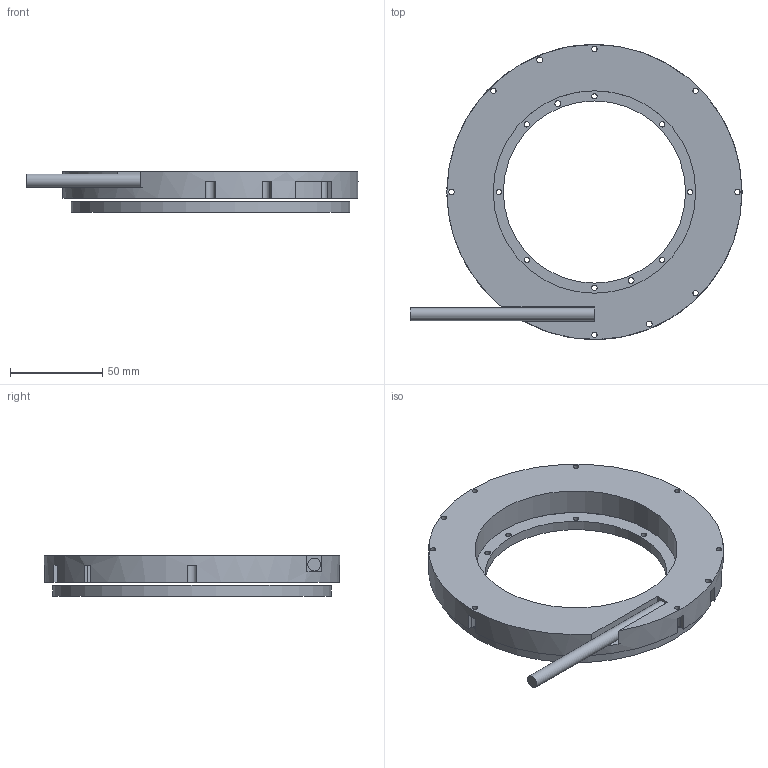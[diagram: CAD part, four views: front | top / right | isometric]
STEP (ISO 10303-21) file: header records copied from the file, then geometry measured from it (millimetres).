
FILE_DESCRIPTION(('STEP AP242'), '1');
FILE_NAME('YA-160', '', ('UNSPECIFIED'), ('UNSPECIFIED'), 'C3D Converter', 'C3D Toolkit', '');
FILE_SCHEMA(('AP242_MANAGED_MODEL_BASED_3D_ENGINEERING_MIM_LF { 1 0 10303 442 1 1 4 }'));
Length unit declared in the file: millimetre
Products named in the file (4): -02
Assembly tree (3 placements, depth 2):
  (unnamed)
    -02
    -02
    (unnamed)
Bounding box: 180 x 159.99 x 21.9 mm (x, y, z)
Volume: 208192.7 mm3; surface area: 78268.4 mm2
Topology: 3 solids, 3 shells, 438 faces, 1288 edges, 858 vertices
Faces by surface type: plane 399, cylinder 39
Full cylindrical faces by diameter (mm): 2.9 x15, 3.2 x4, 7 x1, 98.8 x1, 109.8 x1, 115 x2, 149 x2, 151 x1, 160 x1
Entity records: 17042 total; most frequent: DIRECTION 2600, CARTESIAN_POINT 2560, ORIENTED_EDGE 2520, EDGE_CURVE 1260, AXIS2_PLACEMENT_3D 898, VERTEX_POINT 858, LINE 804, VECTOR 804
